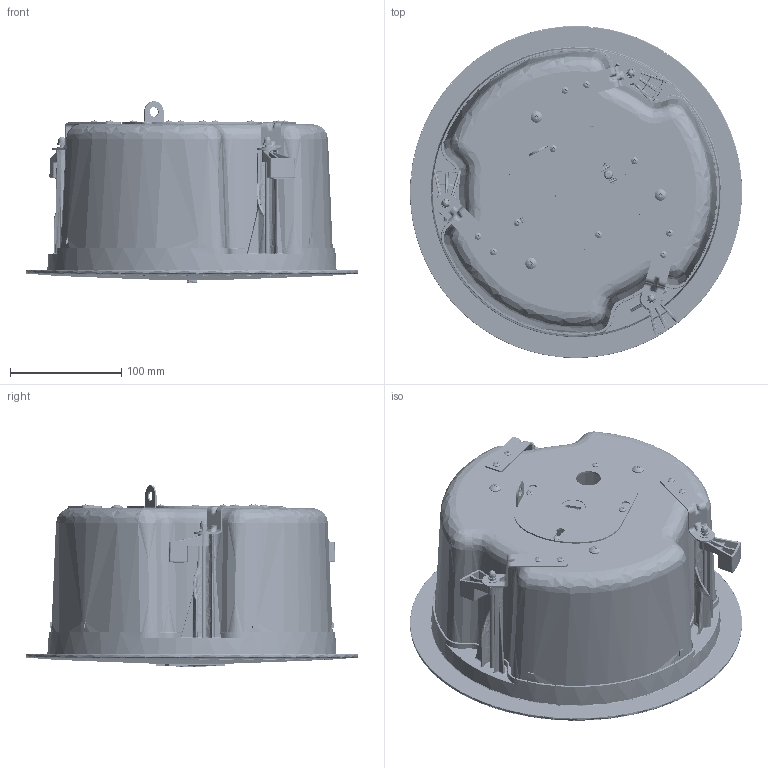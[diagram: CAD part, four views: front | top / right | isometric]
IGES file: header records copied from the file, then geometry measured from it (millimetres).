
Global section: file name: C:\Bose\Develop\Larry\Drawings\Export\Larry Flush 20100420_x_t.igs; native system: NX V6.0; preprocessor: SIEMENS UGS NX 6.0; date: 20100601.095817; units: millimetre
Bounding box: 299 x 298.88 x 163.3 mm (x, y, z)
Surface area: 1972205.7 mm2 (no closed solid volume)
Topology: 0 solids, 0 shells, 5718 faces, 38000 edges, 37357 vertices
Faces by surface type: bspline 5718
